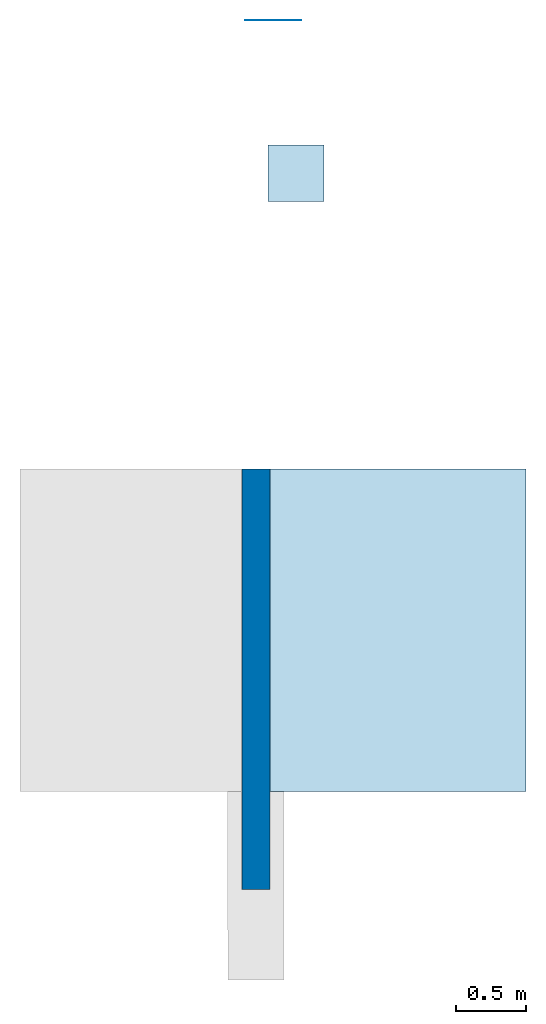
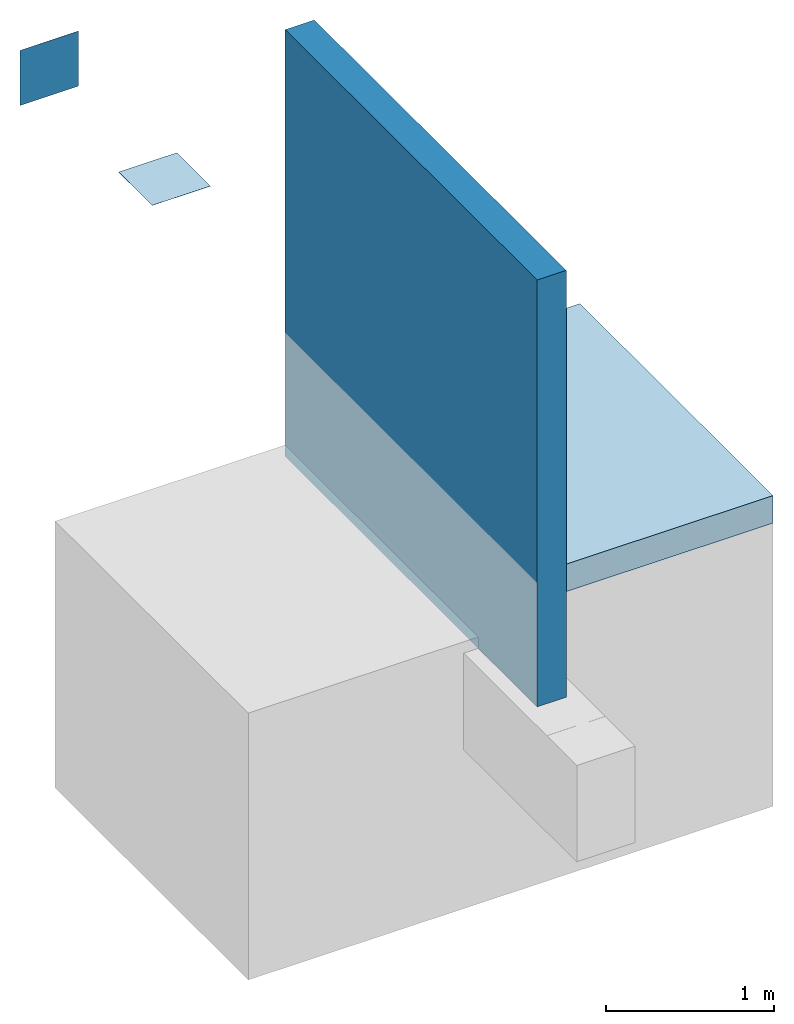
# One storey, part 1 of 2: 2 slabs, 2 walls.
"""IFC2X3 building model written with IfcOpenShell, lengths in metres."""

from ifc_helpers import new_model, entity, si_unit, converted_unit, derived_unit, direction, frame, frame_2d, origin, origin_2d_with_axis, place, context, subcontext, project, spatial, rectangle, extrude, material, layer, layer_set, layer_usage, type_object, element, save


model = new_model("IFC2X3")

# Units and contexts
model_context = context("Model", 3, precision=1e-05, world=origin(), true_north=direction((6.123031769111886e-17, 1.0)))
body_context = subcontext(model_context, "Body", "Model", "MODEL_VIEW")
ifc_project = project(units=[si_unit("LENGTHUNIT", "METRE"), si_unit("AREAUNIT", "SQUARE_METRE"), si_unit("VOLUMEUNIT", "CUBIC_METRE"), converted_unit("PLANEANGLEUNIT", "DEGREE", entity("IfcRatioMeasure", 0.017453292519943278), si_unit("PLANEANGLEUNIT", "RADIAN"), dimensions=[0, 0, 0, 0, 0, 0, 0]), si_unit("MASSUNIT", "GRAM", prefix="KILO"), derived_unit("MASSDENSITYUNIT", [(si_unit("MASSUNIT", "GRAM", prefix="KILO"), 1), (si_unit("LENGTHUNIT", "METRE"), -3)]), derived_unit("IONCONCENTRATIONUNIT", [(si_unit("MASSUNIT", "GRAM", prefix="KILO"), 1), (si_unit("LENGTHUNIT", "METRE"), -3)]), derived_unit("MOMENTOFINERTIAUNIT", [(si_unit("LENGTHUNIT", "METRE"), 4)]), si_unit("TIMEUNIT", "SECOND"), si_unit("FREQUENCYUNIT", "HERTZ"), si_unit("THERMODYNAMICTEMPERATUREUNIT", "DEGREE_CELSIUS"), derived_unit("THERMALTRANSMITTANCEUNIT", [(si_unit("MASSUNIT", "GRAM", prefix="KILO"), 1), (si_unit("THERMODYNAMICTEMPERATUREUNIT", "KELVIN"), -1), (si_unit("TIMEUNIT", "SECOND"), -3)]), derived_unit("THERMALCONDUCTANCEUNIT", [(si_unit("MASSUNIT", "GRAM", prefix="KILO"), 1), (si_unit("THERMODYNAMICTEMPERATUREUNIT", "KELVIN"), -1), (si_unit("TIMEUNIT", "SECOND"), -3), (si_unit("LENGTHUNIT", "METRE"), 1)]), derived_unit("VOLUMETRICFLOWRATEUNIT", [(si_unit("LENGTHUNIT", "METRE"), 3), (si_unit("TIMEUNIT", "SECOND"), -1)]), derived_unit("MASSFLOWRATEUNIT", [(si_unit("MASSUNIT", "GRAM", prefix="KILO"), 1), (si_unit("TIMEUNIT", "SECOND"), -1)]), derived_unit("ROTATIONALFREQUENCYUNIT", [(si_unit("TIMEUNIT", "SECOND"), -1)]), si_unit("ELECTRICCURRENTUNIT", "AMPERE"), si_unit("ELECTRICVOLTAGEUNIT", "VOLT"), si_unit("POWERUNIT", "WATT"), si_unit("FORCEUNIT", "NEWTON", prefix="KILO"), si_unit("ILLUMINANCEUNIT", "LUX"), si_unit("LUMINOUSFLUXUNIT", "LUMEN"), si_unit("LUMINOUSINTENSITYUNIT", "CANDELA"), derived_unit("USERDEFINED", [(si_unit("MASSUNIT", "GRAM", prefix="KILO"), -1), (si_unit("LENGTHUNIT", "METRE"), -2), (si_unit("TIMEUNIT", "SECOND"), 3), (si_unit("LUMINOUSFLUXUNIT", "LUMEN"), 1)]), derived_unit("USERDEFINED", [(si_unit("MASSUNIT", "GRAM", prefix="KILO"), 1), (si_unit("TIMEUNIT", "SECOND"), -3), (si_unit("LENGTHUNIT", "METRE"), 3), (si_unit("ELECTRICCURRENTUNIT", "AMPERE"), -2)]), derived_unit("SOUNDPOWERUNIT", [(si_unit("MASSUNIT", "GRAM", prefix="KILO"), 1), (si_unit("TIMEUNIT", "SECOND"), -3), (si_unit("LENGTHUNIT", "METRE"), 2)]), derived_unit("SOUNDPRESSUREUNIT", [(si_unit("MASSUNIT", "GRAM", prefix="KILO"), 1), (si_unit("LENGTHUNIT", "METRE"), -1), (si_unit("TIMEUNIT", "SECOND"), -2)]), derived_unit("LINEARVELOCITYUNIT", [(si_unit("LENGTHUNIT", "METRE"), 1), (si_unit("TIMEUNIT", "SECOND"), -1)]), si_unit("PRESSUREUNIT", "PASCAL"), derived_unit("USERDEFINED", [(si_unit("MASSUNIT", "GRAM", prefix="KILO"), 1), (si_unit("LENGTHUNIT", "METRE"), -2), (si_unit("TIMEUNIT", "SECOND"), -2)]), derived_unit("LINEARFORCEUNIT", [(si_unit("MASSUNIT", "GRAM", prefix="KILO"), 1), (si_unit("TIMEUNIT", "SECOND"), -2)]), derived_unit("PLANARFORCEUNIT", [(si_unit("MASSUNIT", "GRAM", prefix="KILO"), 1), (si_unit("LENGTHUNIT", "METRE"), -1), (si_unit("TIMEUNIT", "SECOND"), -2)]), derived_unit("SPECIFICHEATCAPACITYUNIT", [(si_unit("THERMODYNAMICTEMPERATUREUNIT", "KELVIN"), -1), (si_unit("LENGTHUNIT", "METRE"), 2), (si_unit("TIMEUNIT", "SECOND"), -2)]), derived_unit("HEATINGVALUEUNIT", [(si_unit("LENGTHUNIT", "METRE"), 2), (si_unit("TIMEUNIT", "SECOND"), -2)]), derived_unit("VAPORPERMEABILITYUNIT", [(si_unit("LENGTHUNIT", "METRE"), -1), (si_unit("TIMEUNIT", "SECOND"), 1)]), derived_unit("DYNAMICVISCOSITYUNIT", [(si_unit("MASSUNIT", "GRAM", prefix="KILO"), 1), (si_unit("TIMEUNIT", "SECOND"), -1), (si_unit("LENGTHUNIT", "METRE"), -1)]), derived_unit("THERMALEXPANSIONCOEFFICIENTUNIT", [(si_unit("THERMODYNAMICTEMPERATUREUNIT", "KELVIN"), -1)]), derived_unit("MODULUSOFELASTICITYUNIT", [(si_unit("MASSUNIT", "GRAM", prefix="KILO"), 1), (si_unit("LENGTHUNIT", "METRE"), -1), (si_unit("TIMEUNIT", "SECOND"), -2)]), derived_unit("ISOTHERMALMOISTURECAPACITYUNIT", [(si_unit("LENGTHUNIT", "METRE"), 3), (si_unit("MASSUNIT", "GRAM", prefix="KILO"), -1)]), derived_unit("MOISTUREDIFFUSIVITYUNIT", [(si_unit("TIMEUNIT", "SECOND"), -1), (si_unit("LENGTHUNIT", "METRE"), 2)])], contexts=[model_context])

# Site, building, storey
site_placement = place(None, origin())
site = spatial("IfcSite", under=ifc_project, at=site_placement, Name="Default", CompositionType="ELEMENT")
building_placement = place(site_placement, origin())
building = spatial("IfcBuilding", under=site, at=building_placement, CompositionType="ELEMENT")
storey_placement = place(building_placement, frame((0.0, 0.0, -0.0025237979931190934)))
storey = spatial("IfcBuildingStorey", under=building, at=storey_placement, Name="ARQ Térreo", CompositionType="ELEMENT", Elevation=-0.0025237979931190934)

# Slabs
ifc_material_1 = material(Name="#concreto")
ifc_layer_1 = layer(ifc_material_1, 0.2)
ifc_layer_set_1 = layer_set([ifc_layer_1], Name="Piso:Piso:LAJE CONCRETO")
ifc_layer_usage_1 = layer_usage(ifc_layer_set_1, "AXIS3", "POSITIVE", 0.0)
slab_type_1 = type_object("IfcSlabType", Name="Piso:Piso:LAJE CONCRETO", PredefinedType="FLOOR", material=ifc_layer_set_1)
slab_1_placement = place(storey_placement, origin())
element("IfcSlab", 1, at=slab_1_placement, inside=storey, type_object=slab_type_1, material=ifc_layer_usage_1, Name="Piso:Piso:LAJE CONCRETO", ObjectType="Piso:Piso:LAJE CONCRETO", PredefinedType="FLOOR", context=body_context, shape_type="SweptSolid", body=[
    extrude(rectangle(XDim=2.3000000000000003, YDim=2.000000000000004, at=origin_2d_with_axis()), frame((0.49802958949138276, -1.0041299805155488, -0.2), z_axis=(0.0, 0.0, -1.0), x_axis=(0.0, 1.0, 0.0)), (0.0, 0.0, 1.0), 0.2),
])
ifc_material_2 = material(Name="#Vedalage Preto")
ifc_layer_2 = layer(ifc_material_2, 0.0009999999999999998)
ifc_layer_set_2 = layer_set([ifc_layer_2], Name="Piso:IMPH_VDG PRETO")
ifc_layer_usage_2 = layer_usage(ifc_layer_set_2, "AXIS3", "POSITIVE", 0.0)
slab_type_2 = type_object("IfcSlabType", Name="Piso:IMPH_VDG PRETO", PredefinedType="FLOOR", material=ifc_layer_set_2)
slab_2_placement = place(storey_placement, origin())
element("IfcSlab", 2, at=slab_2_placement, inside=storey, type_object=slab_type_2, material=ifc_layer_usage_2, Name="Piso:IMPH_VDG PRETO", ObjectType="Piso:IMPH_VDG PRETO", PredefinedType="FLOOR", context=body_context, shape_type="SweptSolid", body=[
    extrude(rectangle(XDim=0.4, YDim=0.4, at=origin_2d_with_axis()), frame((-0.13947178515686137, 2.254124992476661, 0.0), z_axis=(0.0, 0.0, -1.0), x_axis=(0.0, 1.0, 0.0)), (0.0, 0.0, 1.0), 0.001),
])

# Walls
ifc_material_3 = material(Name="Tijolo, Comum")
ifc_layer_3 = layer(ifc_material_3, 0.2)
ifc_layer_set_3 = layer_set([ifc_layer_3], Name="Parede básica:Alvenaria - 200 mm")
ifc_layer_usage_3 = layer_usage(ifc_layer_set_3, "AXIS2", "NEGATIVE", 0.1)
wall_type_1 = type_object("IfcWallType", Name="Parede básica:Alvenaria - 200 mm", PredefinedType="STANDARD", material=ifc_layer_set_3)
wall_1_placement = place(storey_placement, frame((-0.4269704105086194, 0.14587001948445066, -0.6018542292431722), z_axis=(0.0, 0.0, 1.0), x_axis=(0.0, -1.0, 0.0)))
element("IfcWallStandardCase", 3, at=wall_1_placement, inside=storey, type_object=wall_type_1, material=ifc_layer_usage_3, Name="Parede básica:Parede Concreto", ObjectType="Parede básica:Parede Concreto", context=body_context, shape_type="SweptSolid", body=[
    extrude(rectangle(XDim=2.9999999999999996, YDim=0.2, at=frame_2d((1.4999999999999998, 0.0), x_axis=(-1.0, 0.0))), origin(), (0.0, 0.0, 1.0), 3.101854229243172),
])
ifc_layer_4 = layer(ifc_material_2, 0.0009999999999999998)
ifc_layer_set_4 = layer_set([ifc_layer_4], Name="Parede básica:IMPV_VDG PRETO")
ifc_layer_usage_4 = layer_usage(ifc_layer_set_4, "AXIS2", "POSITIVE", -0.0005000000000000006)
wall_type_2 = type_object("IfcWallType", Name="Parede básica:IMPV_VDG PRETO", PredefinedType="STANDARD", material=ifc_layer_set_4)
wall_2_placement = place(storey_placement, frame((-0.5019704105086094, 3.345870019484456, 0.0)))
element("IfcWallStandardCase", 4, at=wall_2_placement, inside=storey, type_object=wall_type_2, material=ifc_layer_usage_4, Name="Parede básica:IMPV_VP1000", ObjectType="Parede básica:IMPV_VP1000", context=body_context, shape_type="SweptSolid", body=[
    extrude(rectangle(XDim=0.4, YDim=0.0009999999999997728, at=frame_2d((0.2, -6.890104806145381e-17), x_axis=(-1.0, 0.0))), origin(), (0.0, 0.0, 1.0), 0.4),
])

save(model, "model.ifc")
